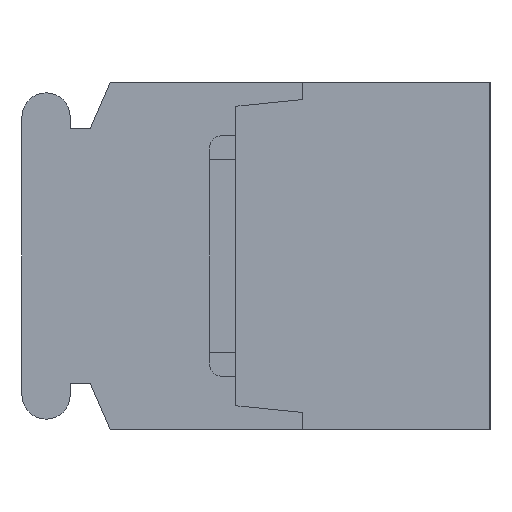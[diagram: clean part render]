
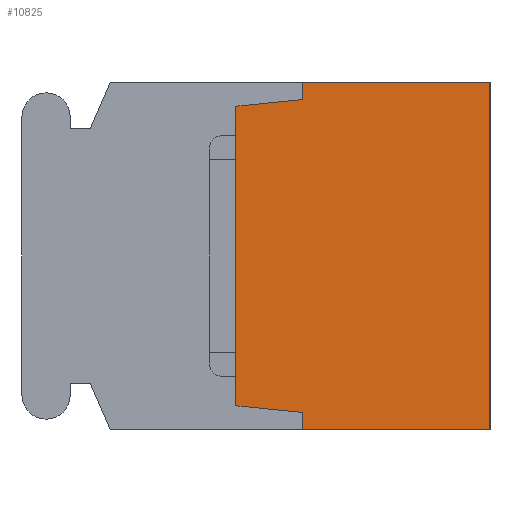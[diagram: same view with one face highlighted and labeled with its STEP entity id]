
A CAD part, left-side view. The second image highlights one B-rep face of the part: STEP entity #10825.
In plain terms, the highlighted planar face has unit normal (-1, 0, 0).
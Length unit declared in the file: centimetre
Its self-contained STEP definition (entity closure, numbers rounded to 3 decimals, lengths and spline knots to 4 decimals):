
#1061=VECTOR('',#12392,1.);
#1070=VECTOR('',#12402,1.);
#1108=VECTOR('',#12456,1.);
#1345=VECTOR('',#13041,1.);
#1346=VECTOR('',#13042,1.);
#1347=VECTOR('',#13043,1.);
#1348=VECTOR('',#13044,1.);
#1349=VECTOR('',#13045,1.);
#2299=LINE('',#15561,#1061);
#2308=LINE('',#15578,#1070);
#2346=LINE('',#15657,#1108);
#2583=LINE('',#16422,#1345);
#2584=LINE('',#16424,#1346);
#2585=LINE('',#16426,#1347);
#2586=LINE('',#16428,#1348);
#2587=LINE('',#16430,#1349);
#3502=VERTEX_POINT('',#15558);
#3503=VERTEX_POINT('',#15560);
#3511=VERTEX_POINT('',#15579);
#3539=VERTEX_POINT('',#15656);
#3760=VERTEX_POINT('',#16423);
#3761=VERTEX_POINT('',#16425);
#3762=VERTEX_POINT('',#16427);
#3763=VERTEX_POINT('',#16429);
#4937=EDGE_CURVE('',#3503,#3502,#2299,.T.);
#4946=EDGE_CURVE('',#3502,#3511,#2308,.T.);
#4986=EDGE_CURVE('',#3539,#3503,#2346,.T.);
#5327=EDGE_CURVE('',#3760,#3539,#2583,.T.);
#5328=EDGE_CURVE('',#3761,#3760,#2584,.T.);
#5329=EDGE_CURVE('',#3762,#3761,#2585,.T.);
#5330=EDGE_CURVE('',#3763,#3762,#2586,.T.);
#5331=EDGE_CURVE('',#3511,#3763,#2587,.T.);
#8037=ORIENTED_EDGE('',*,*,#4937,.F.);
#8038=ORIENTED_EDGE('',*,*,#4986,.F.);
#8039=ORIENTED_EDGE('',*,*,#5327,.F.);
#8040=ORIENTED_EDGE('',*,*,#5328,.F.);
#8041=ORIENTED_EDGE('',*,*,#5329,.F.);
#8042=ORIENTED_EDGE('',*,*,#5330,.F.);
#8043=ORIENTED_EDGE('',*,*,#5331,.F.);
#8044=ORIENTED_EDGE('',*,*,#4946,.F.);
#9523=EDGE_LOOP('',(#8037,#8038,#8039,#8040,#8041,#8042,#8043,#8044));
#10201=FACE_BOUND('',#9523,.T.);
#10825=ADVANCED_FACE('',(#10201),#11332,.F.);
#11332=PLANE('',#18415);
#12392=DIRECTION('',(0.,0.,-1.));
#12402=DIRECTION('',(0.,1.,0.));
#12456=DIRECTION('',(0.,-1.,0.));
#13040=DIRECTION('',(1.,0.,0.));
#13041=DIRECTION('',(0.,0.,1.));
#13042=DIRECTION('',(0.,-0.995,0.1));
#13043=DIRECTION('',(0.,0.,1.));
#13044=DIRECTION('',(0.,0.995,0.1));
#13045=DIRECTION('',(0.,0.,1.));
#15558=CARTESIAN_POINT('',(-1.84,0.,-0.65));
#15560=CARTESIAN_POINT('',(-1.84,0.,0.65));
#15561=CARTESIAN_POINT('',(-1.84,0.,0.65));
#15578=CARTESIAN_POINT('',(-1.84,0.,-0.65));
#15579=CARTESIAN_POINT('',(-1.84,0.7,-0.65));
#15656=CARTESIAN_POINT('',(-1.84,0.7,0.65));
#15657=CARTESIAN_POINT('',(-1.84,0.7,0.65));
#16421=CARTESIAN_POINT('',(-1.84,0.4626,0.));
#16422=CARTESIAN_POINT('',(-1.84,0.7,0.585));
#16423=CARTESIAN_POINT('',(-1.84,0.7,0.585));
#16424=CARTESIAN_POINT('',(-1.84,0.95,0.56));
#16425=CARTESIAN_POINT('',(-1.84,0.95,0.56));
#16426=CARTESIAN_POINT('',(-1.84,0.95,-0.56));
#16427=CARTESIAN_POINT('',(-1.84,0.95,-0.56));
#16428=CARTESIAN_POINT('',(-1.84,0.7,-0.585));
#16429=CARTESIAN_POINT('',(-1.84,0.7,-0.585));
#16430=CARTESIAN_POINT('',(-1.84,0.7,-0.65));
#18415=AXIS2_PLACEMENT_3D('',#16421,#13040,$);
